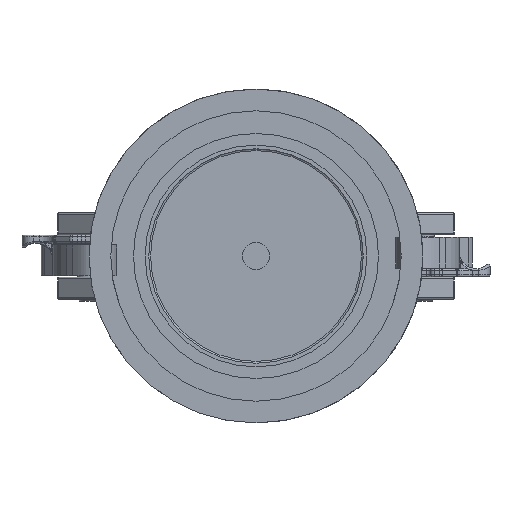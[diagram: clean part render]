
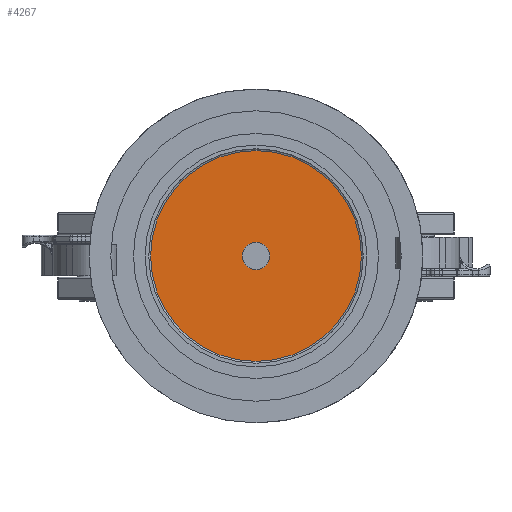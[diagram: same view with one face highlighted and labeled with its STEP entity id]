
A CAD part, left-side view. The second image highlights one B-rep face of the part: STEP entity #4267.
In plain terms, the highlighted planar face has unit normal (-1, 0, 0).
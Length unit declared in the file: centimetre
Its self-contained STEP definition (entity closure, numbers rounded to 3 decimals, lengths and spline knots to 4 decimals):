
#1239=PLANE('',#4625);
#1384=CIRCLE('',#4622,4.3688);
#1386=CIRCLE('',#4626,0.5715);
#1714=VERTEX_POINT('',#8256);
#1716=VERTEX_POINT('',#8262);
#2192=EDGE_CURVE('',#1714,#1714,#1384,.T.);
#2194=EDGE_CURVE('',#1716,#1716,#1386,.T.);
#2998=ORIENTED_EDGE('',*,*,#2194,.T.);
#2999=ORIENTED_EDGE('',*,*,#2192,.F.);
#3684=EDGE_LOOP('',(#2998));
#3685=EDGE_LOOP('',(#2999));
#3990=FACE_BOUND('',#3684,.T.);
#3991=FACE_BOUND('',#3685,.T.);
#4267=ADVANCED_FACE('',(#3990,#3991),#1239,.T.);
#4622=AXIS2_PLACEMENT_3D('',#8255,#5435,#5436);
#4625=AXIS2_PLACEMENT_3D('',#8260,#5441,$);
#4626=AXIS2_PLACEMENT_3D('',#8261,#5442,#5443);
#5435=DIRECTION('',(1.,0.,0.));
#5436=DIRECTION('',(0.,0.,-4.369));
#5441=DIRECTION('',(-1.,0.,0.));
#5442=DIRECTION('',(1.,0.,0.));
#5443=DIRECTION('',(0.,0.,0.572));
#8255=CARTESIAN_POINT('',(5.207,0.,0.));
#8256=CARTESIAN_POINT('',(5.207,0.,4.3688));
#8260=CARTESIAN_POINT('',(5.207,0.,0.));
#8261=CARTESIAN_POINT('',(5.207,0.,0.));
#8262=CARTESIAN_POINT('',(5.207,0.,0.5715));
